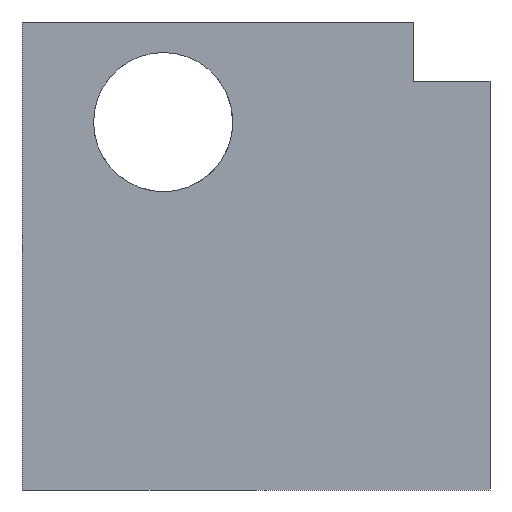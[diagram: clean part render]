
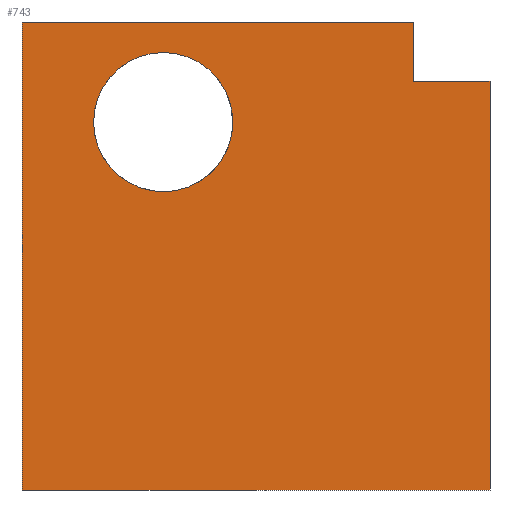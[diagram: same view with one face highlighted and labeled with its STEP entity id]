
A CAD part, left-side view. The second image highlights one B-rep face of the part: STEP entity #743.
In plain terms, the highlighted planar face has unit normal (-1, 0, 0).
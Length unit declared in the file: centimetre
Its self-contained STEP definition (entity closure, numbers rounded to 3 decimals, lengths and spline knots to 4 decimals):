
#5 = CARTESIAN_POINT ( 'NONE',  ( 0., 698.2566, 934.7533 ) ) ;
#20 = CARTESIAN_POINT ( 'NONE',  ( 0., 162.4842, 873.7034 ) ) ;
#26 = FACE_BOUND ( 'NONE', #81, .T. ) ;
#28 = CARTESIAN_POINT ( 'NONE',  ( 0., 162.4842, 873.7034 ) ) ;
#29 = EDGE_CURVE ( 'NONE', #294, #433, #641, .T. ) ;
#64 = LINE ( 'NONE', #590, #742 ) ;
#81 = EDGE_LOOP ( 'NONE', ( #202, #623 ) ) ;
#97 = DIRECTION ( 'NONE',  ( 0., -1., 0. ) ) ;
#108 = ORIENTED_EDGE ( 'NONE', *, *, #29, .T. ) ;
#138 = AXIS2_PLACEMENT_3D ( 'NONE', #206, #358, #341 ) ;
#145 = ORIENTED_EDGE ( 'NONE', *, *, #665, .F. ) ;
#149 = VECTOR ( 'NONE', #731, 100. ) ;
#152 = LINE ( 'NONE', #859, #832 ) ;
#173 = VECTOR ( 'NONE', #97, 100. ) ;
#177 = ORIENTED_EDGE ( 'NONE', *, *, #806, .F. ) ;
#186 = DIRECTION ( 'NONE',  ( 0., -1., 0. ) ) ;
#194 = CARTESIAN_POINT ( 'NONE',  ( 0., 1000., 0. ) ) ;
#199 = CARTESIAN_POINT ( 'NONE',  ( 0., 0., 1000. ) ) ;
#202 = ORIENTED_EDGE ( 'NONE', *, *, #276, .F. ) ;
#206 = CARTESIAN_POINT ( 'NONE',  ( 0., 698.2566, 786.0571 ) ) ;
#209 = ORIENTED_EDGE ( 'NONE', *, *, #789, .F. ) ;
#214 = EDGE_LOOP ( 'NONE', ( #145, #108, #209, #828, #823, #177 ) ) ;
#219 = AXIS2_PLACEMENT_3D ( 'NONE', #567, #300, #435 ) ;
#244 = FACE_OUTER_BOUND ( 'NONE', #214, .T. ) ;
#255 = LINE ( 'NONE', #194, #149 ) ;
#276 = EDGE_CURVE ( 'NONE', #302, #629, #763, .T. ) ;
#294 = VERTEX_POINT ( 'NONE', #20 ) ;
#296 = DIRECTION ( 'NONE',  ( 0., 0., 1. ) ) ;
#300 = DIRECTION ( 'NONE',  ( 1., 0., 0. ) ) ;
#302 = VERTEX_POINT ( 'NONE', #5 ) ;
#307 = VERTEX_POINT ( 'NONE', #542 ) ;
#309 = DIRECTION ( 'NONE',  ( 0., 0., -1. ) ) ;
#315 = VECTOR ( 'NONE', #469, 100. ) ;
#341 = DIRECTION ( 'NONE',  ( 0., 0., 1. ) ) ;
#350 = EDGE_CURVE ( 'NONE', #650, #446, #152, .T. ) ;
#358 = DIRECTION ( 'NONE',  ( -1., 0., 0. ) ) ;
#392 = CARTESIAN_POINT ( 'NONE',  ( 0., 698.2566, 786.0571 ) ) ;
#404 = CIRCLE ( 'NONE', #636, 148.6961 ) ;
#410 = DIRECTION ( 'NONE',  ( 0., 0., 1. ) ) ;
#433 = VERTEX_POINT ( 'NONE', #580 ) ;
#435 = DIRECTION ( 'NONE',  ( 0., 0., -1. ) ) ;
#442 = VECTOR ( 'NONE', #296, 100. ) ;
#446 = VERTEX_POINT ( 'NONE', #663 ) ;
#469 = DIRECTION ( 'NONE',  ( 0., 0., -1. ) ) ;
#478 = EDGE_CURVE ( 'NONE', #629, #302, #404, .T. ) ;
#480 = VERTEX_POINT ( 'NONE', #740 ) ;
#536 = LINE ( 'NONE', #199, #315 ) ;
#542 = CARTESIAN_POINT ( 'NONE',  ( 0., 0., 0. ) ) ;
#567 = CARTESIAN_POINT ( 'NONE',  ( 0., 1000., 1000. ) ) ;
#579 = LINE ( 'NONE', #709, #173 ) ;
#580 = CARTESIAN_POINT ( 'NONE',  ( 0., 162.4842, 1000. ) ) ;
#590 = CARTESIAN_POINT ( 'NONE',  ( 0., 162.4842, 873.7034 ) ) ;
#599 = CARTESIAN_POINT ( 'NONE',  ( 0., 698.2566, 637.361 ) ) ;
#616 = EDGE_CURVE ( 'NONE', #446, #307, #255, .T. ) ;
#623 = ORIENTED_EDGE ( 'NONE', *, *, #478, .F. ) ;
#629 = VERTEX_POINT ( 'NONE', #599 ) ;
#636 = AXIS2_PLACEMENT_3D ( 'NONE', #392, #670, #410 ) ;
#640 = PLANE ( 'NONE',  #219 ) ;
#641 = LINE ( 'NONE', #28, #442 ) ;
#650 = VERTEX_POINT ( 'NONE', #721 ) ;
#663 = CARTESIAN_POINT ( 'NONE',  ( 0., 1000., 0. ) ) ;
#665 = EDGE_CURVE ( 'NONE', #294, #480, #64, .T. ) ;
#670 = DIRECTION ( 'NONE',  ( -1., 0., 0. ) ) ;
#709 = CARTESIAN_POINT ( 'NONE',  ( 0., 1000., 1000. ) ) ;
#721 = CARTESIAN_POINT ( 'NONE',  ( 0., 1000., 1000. ) ) ;
#731 = DIRECTION ( 'NONE',  ( 0., -1., 0. ) ) ;
#740 = CARTESIAN_POINT ( 'NONE',  ( 0., 0., 873.7034 ) ) ;
#742 = VECTOR ( 'NONE', #186, 100. ) ;
#743 = ADVANCED_FACE ( 'NONE', ( #26, #244 ), #640, .F. ) ;
#763 = CIRCLE ( 'NONE', #138, 148.6961 ) ;
#789 = EDGE_CURVE ( 'NONE', #650, #433, #579, .T. ) ;
#806 = EDGE_CURVE ( 'NONE', #480, #307, #536, .T. ) ;
#823 = ORIENTED_EDGE ( 'NONE', *, *, #616, .T. ) ;
#828 = ORIENTED_EDGE ( 'NONE', *, *, #350, .T. ) ;
#832 = VECTOR ( 'NONE', #309, 100. ) ;
#859 = CARTESIAN_POINT ( 'NONE',  ( 0., 1000., 1000. ) ) ;
